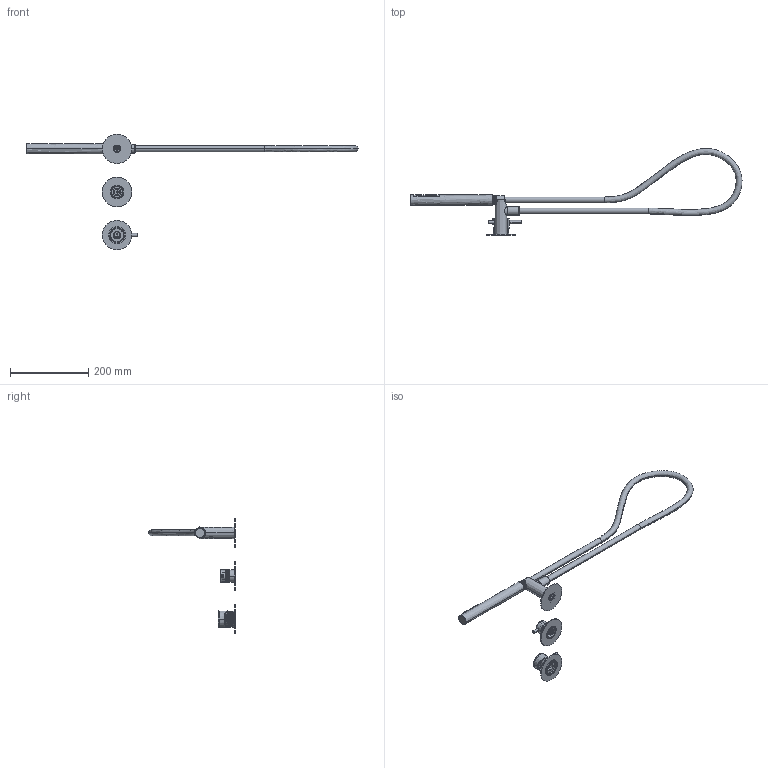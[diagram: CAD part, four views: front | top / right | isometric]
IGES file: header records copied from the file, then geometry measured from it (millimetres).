
Start section:  PTC IGES file: 3d_sw0001.igs
Global section: file name: 3d_sw0001.igs; native system: Creo Parametric by PTC Inc.; preprocessor: 2022014; author: volponeff; organization: Unknown; date: 20241001.134542; units: millimetre
Bounding box: 846.2 x 221.16 x 295 mm (x, y, z)
Surface area: 196389.3 mm2 (no closed solid volume)
Topology: 0 solids, 0 shells, 1376 faces, 7128 edges, 7102 vertices
Faces by surface type: revolution 916, bspline 460
